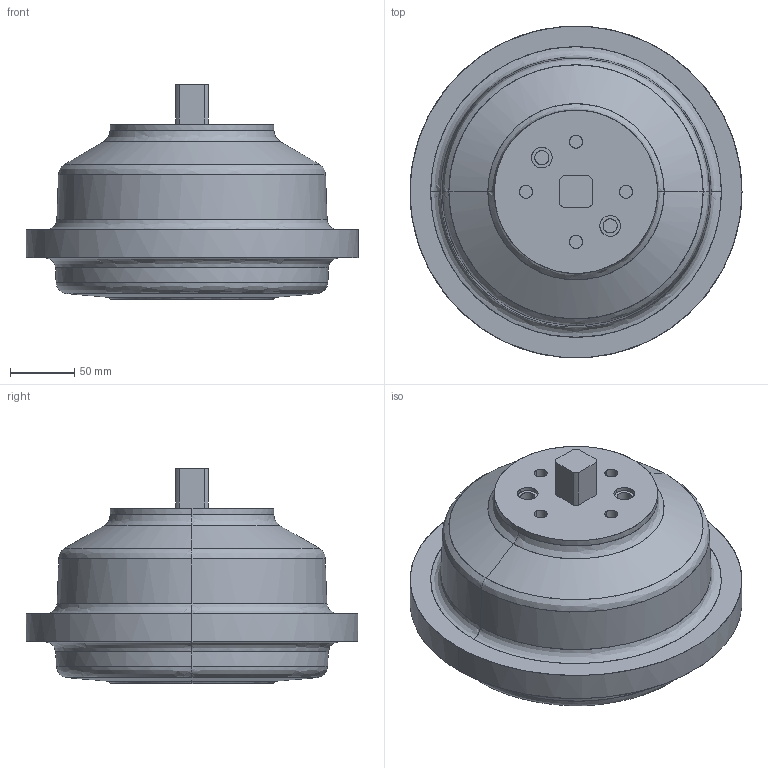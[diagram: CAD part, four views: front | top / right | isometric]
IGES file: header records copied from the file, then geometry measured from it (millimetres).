
Start section: Comment
Global section: file name: 124-020 124-030 IGES.igs; native system:  By UGS Corp.; preprocessor: XPlus GENERIC/IGES 3.0; author: Author; organization: Title; date: 20100308.150607; units: millimetre
Bounding box: 258 x 257.57 x 167.5 mm (x, y, z)
Surface area: 182762.4 mm2 (no closed solid volume)
Topology: 0 solids, 0 shells, 78 faces, 324 edges, 324 vertices
Faces by surface type: bspline 78
